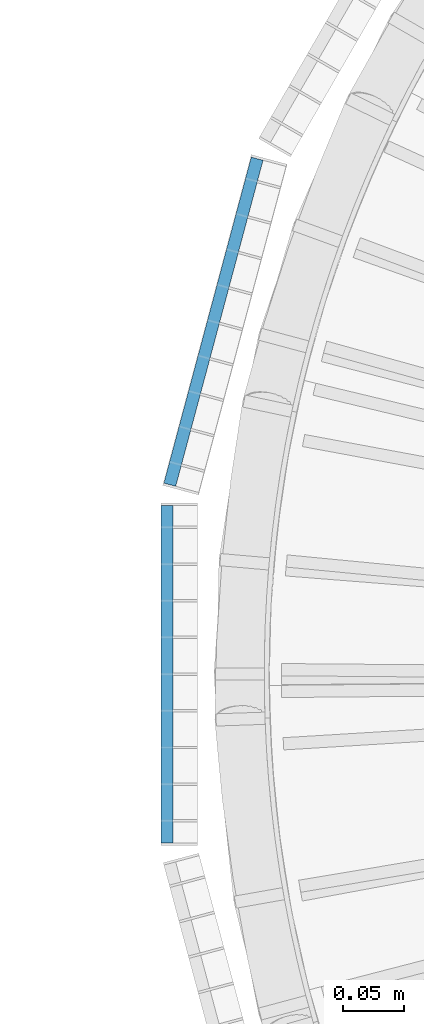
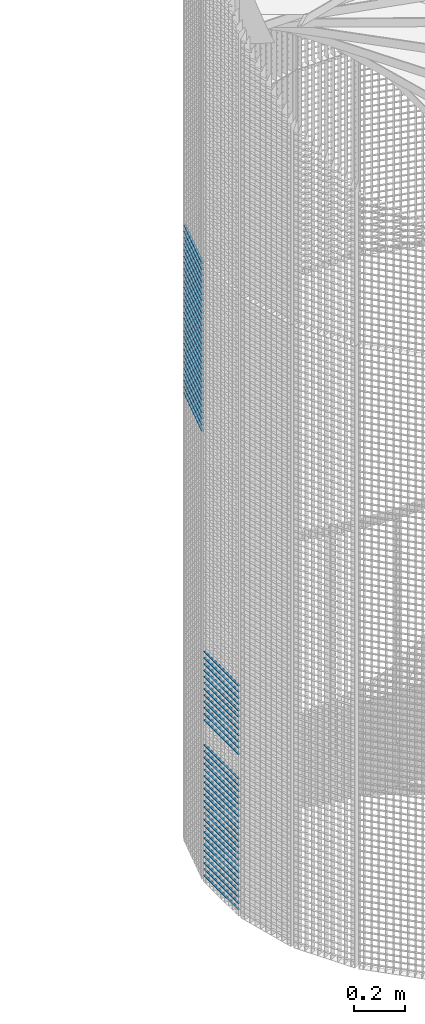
# One storey, part 214 of 1148: 62 beams, 2 elements without a shape of their own.
"""IFC2X3 building model written with IfcOpenShell, lengths in millimetres."""

from ifc_helpers import new_model, si_unit, frame, origin_with_axes, origin_2d_with_axis, place, context, subcontext, project, spatial, rectangle, extrude, material, type_object, element, aggregate, save


model = new_model("IFC2X3")

# Units and contexts
model_context = context("Model", 3, precision=1e-05, world=origin_with_axes())
body_context = subcontext(model_context, "Body", "Model", "MODEL_VIEW")
ifc_project = project(units=[si_unit("LENGTHUNIT", "METRE", prefix="MILLI"), si_unit("AREAUNIT", "SQUARE_METRE"), si_unit("VOLUMEUNIT", "CUBIC_METRE"), si_unit("MASSUNIT", "GRAM", prefix="KILO"), si_unit("TIMEUNIT", "SECOND"), si_unit("PLANEANGLEUNIT", "RADIAN"), si_unit("SOLIDANGLEUNIT", "STERADIAN"), si_unit("THERMODYNAMICTEMPERATUREUNIT", "DEGREE_CELSIUS"), si_unit("LUMINOUSINTENSITYUNIT", "LUMEN")], contexts=[model_context])

# Site, building, storey
site_placement = place(None, origin_with_axes())
site = spatial("IfcSite", under=ifc_project, at=site_placement, Name="Undefined", CompositionType="ELEMENT")
building_placement = place(site_placement, origin_with_axes())
building = spatial("IfcBuilding", under=site, at=building_placement, Name="Undefined", CompositionType="ELEMENT")
storey_placement = place(building_placement, origin_with_axes())
storey = spatial("IfcBuildingStorey", under=building, at=storey_placement, Name="Undefined", CompositionType="ELEMENT", Elevation=0.0)

# Assembly, beams
assembly_1_placement = place(storey_placement, origin_with_axes())
assembly_1 = element("IfcElementAssembly", 1, at=assembly_1_placement, inside=storey, Name="BORDURE", AssemblyPlace="NOTDEFINED", PredefinedType="NOTDEFINED")
ifc_material = material(Name="STEEL/S235JR")
beam_type = type_object("IfcBeamType", Name="PL2*10", PredefinedType="NOTDEFINED")
beam_1_placement = place(assembly_1_placement, frame((-1113.47999999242, 137.996003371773, 659.999999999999), z_axis=(-1.0, 0.0, 0.0), x_axis=(0.0, -1.0, 0.0)))
beam_1 = element("IfcBeam", 2, at=beam_1_placement, type_object=beam_type, material=ifc_material, Name="ENTRETOISE", context=body_context, shape_type="SweptSolid", body=[
    extrude(rectangle(XDim=2.0, YDim=10.0, at=origin_2d_with_axis()), frame((275.999999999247, 9.09494701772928e-13, 1.53210777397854e-14), z_axis=(-1.0, 0.0, 0.0), x_axis=(0.0, -1.0, 0.0)), (0.0, 0.0, 1.0), 276.0),
])
beam_2_placement = place(assembly_1_placement, frame((-1113.47999999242, 137.996003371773, 629.999999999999), z_axis=(-1.0, 0.0, 0.0), x_axis=(0.0, -1.0, 0.0)))
beam_2 = element("IfcBeam", 3, at=beam_2_placement, type_object=beam_type, material=ifc_material, Name="ENTRETOISE", context=body_context, shape_type="SweptSolid", body=[
    extrude(rectangle(XDim=2.0, YDim=10.0, at=origin_2d_with_axis()), frame((275.999999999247, 9.09494701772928e-13, 1.53210777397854e-14), z_axis=(-1.0, 0.0, 0.0), x_axis=(0.0, -1.0, 0.0)), (0.0, 0.0, 1.0), 276.0),
])
beam_3_placement = place(assembly_1_placement, frame((-1113.47999999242, 137.996003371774, 779.999999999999), z_axis=(-1.0, 0.0, 0.0), x_axis=(0.0, -1.0, 0.0)))
beam_3 = element("IfcBeam", 4, at=beam_3_placement, type_object=beam_type, material=ifc_material, Name="ENTRETOISE", context=body_context, shape_type="SweptSolid", body=[
    extrude(rectangle(XDim=2.0, YDim=10.0, at=origin_2d_with_axis()), frame((275.999999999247, 9.09494701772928e-13, 1.53210777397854e-14), z_axis=(-1.0, 0.0, 0.0), x_axis=(0.0, -1.0, 0.0)), (0.0, 0.0, 1.0), 276.0),
])
beam_4_placement = place(assembly_1_placement, frame((-1113.47999999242, 137.996003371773, 599.999999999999), z_axis=(-1.0, 0.0, 0.0), x_axis=(0.0, -1.0, 0.0)))
beam_4 = element("IfcBeam", 5, at=beam_4_placement, type_object=beam_type, material=ifc_material, Name="ENTRETOISE", context=body_context, shape_type="SweptSolid", body=[
    extrude(rectangle(XDim=2.0, YDim=10.0, at=origin_2d_with_axis()), frame((275.999999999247, 9.09494701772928e-13, 1.53210777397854e-14), z_axis=(-1.0, 0.0, 0.0), x_axis=(0.0, -1.0, 0.0)), (0.0, 0.0, 1.0), 276.0),
])
beam_5_placement = place(assembly_1_placement, frame((-1113.47999999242, 137.996003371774, 809.999999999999), z_axis=(-1.0, 0.0, 0.0), x_axis=(0.0, -1.0, 0.0)))
beam_5 = element("IfcBeam", 6, at=beam_5_placement, type_object=beam_type, material=ifc_material, Name="ENTRETOISE", context=body_context, shape_type="SweptSolid", body=[
    extrude(rectangle(XDim=2.0, YDim=10.0, at=origin_2d_with_axis()), frame((275.999999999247, 9.09494701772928e-13, 1.53210777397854e-14), z_axis=(-1.0, 0.0, 0.0), x_axis=(0.0, -1.0, 0.0)), (0.0, 0.0, 1.0), 276.0),
])
beam_6_placement = place(assembly_1_placement, frame((-1113.47999999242, 137.996003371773, 569.999999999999), z_axis=(-1.0, 0.0, 0.0), x_axis=(0.0, -1.0, 0.0)))
beam_6 = element("IfcBeam", 7, at=beam_6_placement, type_object=beam_type, material=ifc_material, Name="ENTRETOISE", context=body_context, shape_type="SweptSolid", body=[
    extrude(rectangle(XDim=2.0, YDim=10.0, at=origin_2d_with_axis()), frame((275.999999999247, 9.09494701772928e-13, 1.53210777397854e-14), z_axis=(-1.0, 0.0, 0.0), x_axis=(0.0, -1.0, 0.0)), (0.0, 0.0, 1.0), 276.0),
])
beam_7_placement = place(assembly_1_placement, frame((-1113.47999999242, 137.996003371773, 539.999999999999), z_axis=(-1.0, 0.0, 0.0), x_axis=(0.0, -1.0, 0.0)))
beam_7 = element("IfcBeam", 8, at=beam_7_placement, type_object=beam_type, material=ifc_material, Name="ENTRETOISE", context=body_context, shape_type="SweptSolid", body=[
    extrude(rectangle(XDim=2.0, YDim=10.0, at=origin_2d_with_axis()), frame((275.999999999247, 9.09494701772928e-13, 1.53210777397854e-14), z_axis=(-1.0, 0.0, 0.0), x_axis=(0.0, -1.0, 0.0)), (0.0, 0.0, 1.0), 276.0),
])
beam_8_placement = place(assembly_1_placement, frame((-1113.47999999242, 137.996003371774, 839.999999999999), z_axis=(-1.0, 0.0, 0.0), x_axis=(0.0, -1.0, 0.0)))
beam_8 = element("IfcBeam", 9, at=beam_8_placement, type_object=beam_type, material=ifc_material, Name="ENTRETOISE", context=body_context, shape_type="SweptSolid", body=[
    extrude(rectangle(XDim=2.0, YDim=10.0, at=origin_2d_with_axis()), frame((275.999999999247, 9.09494701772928e-13, 1.53210777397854e-14), z_axis=(-1.0, 0.0, 0.0), x_axis=(0.0, -1.0, 0.0)), (0.0, 0.0, 1.0), 276.0),
])
beam_9_placement = place(assembly_1_placement, frame((-1113.47999999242, 137.996003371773, 509.999999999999), z_axis=(-1.0, 0.0, 0.0), x_axis=(0.0, -1.0, 0.0)))
beam_9 = element("IfcBeam", 10, at=beam_9_placement, type_object=beam_type, material=ifc_material, Name="ENTRETOISE", context=body_context, shape_type="SweptSolid", body=[
    extrude(rectangle(XDim=2.0, YDim=10.0, at=origin_2d_with_axis()), frame((275.999999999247, 9.09494701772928e-13, 1.53210777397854e-14), z_axis=(-1.0, 0.0, 0.0), x_axis=(0.0, -1.0, 0.0)), (0.0, 0.0, 1.0), 276.0),
])
beam_10_placement = place(assembly_1_placement, frame((-1113.47999999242, 137.996003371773, 479.999999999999), z_axis=(-1.0, 0.0, 0.0), x_axis=(0.0, -1.0, 0.0)))
beam_10 = element("IfcBeam", 11, at=beam_10_placement, type_object=beam_type, material=ifc_material, Name="ENTRETOISE", context=body_context, shape_type="SweptSolid", body=[
    extrude(rectangle(XDim=2.0, YDim=10.0, at=origin_2d_with_axis()), frame((275.999999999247, 9.09494701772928e-13, 1.53210777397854e-14), z_axis=(-1.0, 0.0, 0.0), x_axis=(0.0, -1.0, 0.0)), (0.0, 0.0, 1.0), 276.0),
])
beam_11_placement = place(assembly_1_placement, frame((-1113.47999999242, 137.996003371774, 869.999999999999), z_axis=(-1.0, 0.0, 0.0), x_axis=(0.0, -1.0, 0.0)))
beam_11 = element("IfcBeam", 12, at=beam_11_placement, type_object=beam_type, material=ifc_material, Name="ENTRETOISE", context=body_context, shape_type="SweptSolid", body=[
    extrude(rectangle(XDim=2.0, YDim=10.0, at=origin_2d_with_axis()), frame((275.999999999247, 9.09494701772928e-13, 1.53210777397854e-14), z_axis=(-1.0, 0.0, 0.0), x_axis=(0.0, -1.0, 0.0)), (0.0, 0.0, 1.0), 276.0),
])
beam_12_placement = place(assembly_1_placement, frame((-1113.47999999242, 137.996003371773, 449.999999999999), z_axis=(-1.0, 0.0, 0.0), x_axis=(0.0, -1.0, 0.0)))
beam_12 = element("IfcBeam", 13, at=beam_12_placement, type_object=beam_type, material=ifc_material, Name="ENTRETOISE", context=body_context, shape_type="SweptSolid", body=[
    extrude(rectangle(XDim=2.0, YDim=10.0, at=origin_2d_with_axis()), frame((275.999999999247, 9.09494701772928e-13, 1.53210777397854e-14), z_axis=(-1.0, 0.0, 0.0), x_axis=(0.0, -1.0, 0.0)), (0.0, 0.0, 1.0), 276.0),
])
beam_13_placement = place(assembly_1_placement, frame((-1113.47999999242, 137.996003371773, 419.999999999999), z_axis=(-1.0, 0.0, 0.0), x_axis=(0.0, -1.0, 0.0)))
beam_13 = element("IfcBeam", 14, at=beam_13_placement, type_object=beam_type, material=ifc_material, Name="ENTRETOISE", context=body_context, shape_type="SweptSolid", body=[
    extrude(rectangle(XDim=2.0, YDim=10.0, at=origin_2d_with_axis()), frame((275.999999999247, 9.09494701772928e-13, 1.53210777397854e-14), z_axis=(-1.0, 0.0, 0.0), x_axis=(0.0, -1.0, 0.0)), (0.0, 0.0, 1.0), 276.0),
])
beam_14_placement = place(assembly_1_placement, frame((-1113.47999999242, 137.996003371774, 899.999999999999), z_axis=(-1.0, 0.0, 0.0), x_axis=(0.0, -1.0, 0.0)))
beam_14 = element("IfcBeam", 15, at=beam_14_placement, type_object=beam_type, material=ifc_material, Name="ENTRETOISE", context=body_context, shape_type="SweptSolid", body=[
    extrude(rectangle(XDim=2.0, YDim=10.0, at=origin_2d_with_axis()), frame((275.999999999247, 9.09494701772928e-13, 1.53210777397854e-14), z_axis=(-1.0, 0.0, 0.0), x_axis=(0.0, -1.0, 0.0)), (0.0, 0.0, 1.0), 276.0),
])
beam_15_placement = place(assembly_1_placement, frame((-1113.47999999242, 137.996003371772, 389.999999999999), z_axis=(-1.0, 0.0, 0.0), x_axis=(0.0, -1.0, 0.0)))
beam_15 = element("IfcBeam", 16, at=beam_15_placement, type_object=beam_type, material=ifc_material, Name="ENTRETOISE", context=body_context, shape_type="SweptSolid", body=[
    extrude(rectangle(XDim=2.0, YDim=10.0, at=origin_2d_with_axis()), frame((275.999999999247, 9.09494701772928e-13, 1.53210777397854e-14), z_axis=(-1.0, 0.0, 0.0), x_axis=(0.0, -1.0, 0.0)), (0.0, 0.0, 1.0), 276.0),
])
beam_16_placement = place(assembly_1_placement, frame((-1113.47999999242, 137.996003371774, 929.999999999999), z_axis=(-1.0, 0.0, 0.0), x_axis=(0.0, -1.0, 0.0)))
beam_16 = element("IfcBeam", 17, at=beam_16_placement, type_object=beam_type, material=ifc_material, Name="ENTRETOISE", context=body_context, shape_type="SweptSolid", body=[
    extrude(rectangle(XDim=2.0, YDim=10.0, at=origin_2d_with_axis()), frame((275.999999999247, 9.09494701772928e-13, 1.53210777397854e-14), z_axis=(-1.0, 0.0, 0.0), x_axis=(0.0, -1.0, 0.0)), (0.0, 0.0, 1.0), 276.0),
])
beam_17_placement = place(assembly_1_placement, frame((-1113.47999999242, 137.996003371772, 359.999999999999), z_axis=(-1.0, 0.0, 0.0), x_axis=(0.0, -1.0, 0.0)))
beam_17 = element("IfcBeam", 18, at=beam_17_placement, type_object=beam_type, material=ifc_material, Name="ENTRETOISE", context=body_context, shape_type="SweptSolid", body=[
    extrude(rectangle(XDim=2.0, YDim=10.0, at=origin_2d_with_axis()), frame((275.999999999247, 9.09494701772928e-13, 1.53210777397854e-14), z_axis=(-1.0, 0.0, 0.0), x_axis=(0.0, -1.0, 0.0)), (0.0, 0.0, 1.0), 276.0),
])
beam_18_placement = place(assembly_1_placement, frame((-1113.47999999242, 137.996003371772, 329.999999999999), z_axis=(-1.0, 0.0, 0.0), x_axis=(0.0, -1.0, 0.0)))
beam_18 = element("IfcBeam", 19, at=beam_18_placement, type_object=beam_type, material=ifc_material, Name="ENTRETOISE", context=body_context, shape_type="SweptSolid", body=[
    extrude(rectangle(XDim=2.0, YDim=10.0, at=origin_2d_with_axis()), frame((275.999999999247, 9.09494701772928e-13, 1.53210777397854e-14), z_axis=(-1.0, 0.0, 0.0), x_axis=(0.0, -1.0, 0.0)), (0.0, 0.0, 1.0), 276.0),
])
beam_19_placement = place(assembly_1_placement, frame((-1113.47999999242, 137.996003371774, 959.999999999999), z_axis=(-1.0, 0.0, 0.0), x_axis=(0.0, -1.0, 0.0)))
beam_19 = element("IfcBeam", 20, at=beam_19_placement, type_object=beam_type, material=ifc_material, Name="ENTRETOISE", context=body_context, shape_type="SweptSolid", body=[
    extrude(rectangle(XDim=2.0, YDim=10.0, at=origin_2d_with_axis()), frame((275.999999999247, 9.09494701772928e-13, 1.53210777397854e-14), z_axis=(-1.0, 0.0, 0.0), x_axis=(0.0, -1.0, 0.0)), (0.0, 0.0, 1.0), 276.0),
])
beam_20_placement = place(assembly_1_placement, frame((-1113.47999999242, 137.996003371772, 299.999999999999), z_axis=(-1.0, 0.0, 0.0), x_axis=(0.0, -1.0, 0.0)))
beam_20 = element("IfcBeam", 21, at=beam_20_placement, type_object=beam_type, material=ifc_material, Name="ENTRETOISE", context=body_context, shape_type="SweptSolid", body=[
    extrude(rectangle(XDim=2.0, YDim=10.0, at=origin_2d_with_axis()), frame((275.999999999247, 9.09494701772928e-13, 1.53210777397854e-14), z_axis=(-1.0, 0.0, 0.0), x_axis=(0.0, -1.0, 0.0)), (0.0, 0.0, 1.0), 276.0),
])
beam_21_placement = place(assembly_1_placement, frame((-1113.47999999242, 137.996003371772, 269.999999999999), z_axis=(-1.0, 0.0, 0.0), x_axis=(0.0, -1.0, 0.0)))
beam_21 = element("IfcBeam", 22, at=beam_21_placement, type_object=beam_type, material=ifc_material, Name="ENTRETOISE", context=body_context, shape_type="SweptSolid", body=[
    extrude(rectangle(XDim=2.0, YDim=10.0, at=origin_2d_with_axis()), frame((275.999999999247, 9.09494701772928e-13, 1.53210777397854e-14), z_axis=(-1.0, 0.0, 0.0), x_axis=(0.0, -1.0, 0.0)), (0.0, 0.0, 1.0), 276.0),
])
beam_22_placement = place(assembly_1_placement, frame((-1113.47999999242, 137.996003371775, 989.999999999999), z_axis=(-1.0, 0.0, 0.0), x_axis=(0.0, -1.0, 0.0)))
beam_22 = element("IfcBeam", 23, at=beam_22_placement, type_object=beam_type, material=ifc_material, Name="ENTRETOISE", context=body_context, shape_type="SweptSolid", body=[
    extrude(rectangle(XDim=2.0, YDim=10.0, at=origin_2d_with_axis()), frame((275.999999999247, 9.09494701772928e-13, 1.53210777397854e-14), z_axis=(-1.0, 0.0, 0.0), x_axis=(0.0, -1.0, 0.0)), (0.0, 0.0, 1.0), 276.0),
])
beam_23_placement = place(assembly_1_placement, frame((-1113.47999999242, 137.996003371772, 239.999999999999), z_axis=(-1.0, 0.0, 0.0), x_axis=(0.0, -1.0, 0.0)))
beam_23 = element("IfcBeam", 24, at=beam_23_placement, type_object=beam_type, material=ifc_material, Name="ENTRETOISE", context=body_context, shape_type="SweptSolid", body=[
    extrude(rectangle(XDim=2.0, YDim=10.0, at=origin_2d_with_axis()), frame((275.999999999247, 9.09494701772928e-13, 1.53210777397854e-14), z_axis=(-1.0, 0.0, 0.0), x_axis=(0.0, -1.0, 0.0)), (0.0, 0.0, 1.0), 276.0),
])
beam_24_placement = place(assembly_1_placement, frame((-1113.47999999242, 137.996003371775, 1020.0), z_axis=(-1.0, 0.0, 0.0), x_axis=(0.0, -1.0, 0.0)))
beam_24 = element("IfcBeam", 25, at=beam_24_placement, type_object=beam_type, material=ifc_material, Name="ENTRETOISE", context=body_context, shape_type="SweptSolid", body=[
    extrude(rectangle(XDim=2.0, YDim=10.0, at=origin_2d_with_axis()), frame((275.999999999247, 9.09494701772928e-13, 1.53210777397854e-14), z_axis=(-1.0, 0.0, 0.0), x_axis=(0.0, -1.0, 0.0)), (0.0, 0.0, 1.0), 276.0),
])
beam_25_placement = place(assembly_1_placement, frame((-1113.47999999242, 137.996003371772, 209.999999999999), z_axis=(-1.0, 0.0, 0.0), x_axis=(0.0, -1.0, 0.0)))
beam_25 = element("IfcBeam", 26, at=beam_25_placement, type_object=beam_type, material=ifc_material, Name="ENTRETOISE", context=body_context, shape_type="SweptSolid", body=[
    extrude(rectangle(XDim=2.0, YDim=10.0, at=origin_2d_with_axis()), frame((275.999999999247, 9.09494701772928e-13, 1.53210777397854e-14), z_axis=(-1.0, 0.0, 0.0), x_axis=(0.0, -1.0, 0.0)), (0.0, 0.0, 1.0), 276.0),
])
beam_26_placement = place(assembly_1_placement, frame((-1113.47999999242, 137.996003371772, 179.999999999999), z_axis=(-1.0, 0.0, 0.0), x_axis=(0.0, -1.0, 0.0)))
beam_26 = element("IfcBeam", 27, at=beam_26_placement, type_object=beam_type, material=ifc_material, Name="ENTRETOISE", context=body_context, shape_type="SweptSolid", body=[
    extrude(rectangle(XDim=2.0, YDim=10.0, at=origin_2d_with_axis()), frame((275.999999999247, 9.09494701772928e-13, 1.53210777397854e-14), z_axis=(-1.0, 0.0, 0.0), x_axis=(0.0, -1.0, 0.0)), (0.0, 0.0, 1.0), 276.0),
])
beam_27_placement = place(assembly_1_placement, frame((-1113.47999999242, 137.996003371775, 1050.0), z_axis=(-1.0, 0.0, 0.0), x_axis=(0.0, -1.0, 0.0)))
beam_27 = element("IfcBeam", 28, at=beam_27_placement, type_object=beam_type, material=ifc_material, Name="ENTRETOISE", context=body_context, shape_type="SweptSolid", body=[
    extrude(rectangle(XDim=2.0, YDim=10.0, at=origin_2d_with_axis()), frame((275.999999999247, 9.09494701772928e-13, 1.53210777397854e-14), z_axis=(-1.0, 0.0, 0.0), x_axis=(0.0, -1.0, 0.0)), (0.0, 0.0, 1.0), 276.0),
])
beam_28_placement = place(assembly_1_placement, frame((-1113.47999999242, 137.996003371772, 149.999999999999), z_axis=(-1.0, 0.0, 0.0), x_axis=(0.0, -1.0, 0.0)))
beam_28 = element("IfcBeam", 29, at=beam_28_placement, type_object=beam_type, material=ifc_material, Name="ENTRETOISE", context=body_context, shape_type="SweptSolid", body=[
    extrude(rectangle(XDim=2.0, YDim=10.0, at=origin_2d_with_axis()), frame((275.999999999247, 9.09494701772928e-13, 1.53210777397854e-14), z_axis=(-1.0, 0.0, 0.0), x_axis=(0.0, -1.0, 0.0)), (0.0, 0.0, 1.0), 276.0),
])
beam_29_placement = place(assembly_1_placement, frame((-1113.47999999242, 137.996003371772, 119.999999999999), z_axis=(-1.0, 0.0, 0.0), x_axis=(0.0, -1.0, 0.0)))
beam_29 = element("IfcBeam", 30, at=beam_29_placement, type_object=beam_type, material=ifc_material, Name="ENTRETOISE", context=body_context, shape_type="SweptSolid", body=[
    extrude(rectangle(XDim=2.0, YDim=10.0, at=origin_2d_with_axis()), frame((275.999999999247, 9.09494701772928e-13, 1.53210777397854e-14), z_axis=(-1.0, 0.0, 0.0), x_axis=(0.0, -1.0, 0.0)), (0.0, 0.0, 1.0), 276.0),
])
beam_30_placement = place(assembly_1_placement, frame((-1113.47999999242, 137.996003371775, 1080.0), z_axis=(-1.0, 0.0, 0.0), x_axis=(0.0, -1.0, 0.0)))
beam_30 = element("IfcBeam", 31, at=beam_30_placement, type_object=beam_type, material=ifc_material, Name="ENTRETOISE", context=body_context, shape_type="SweptSolid", body=[
    extrude(rectangle(XDim=2.0, YDim=10.0, at=origin_2d_with_axis()), frame((275.999999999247, 9.09494701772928e-13, 1.53210777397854e-14), z_axis=(-1.0, 0.0, 0.0), x_axis=(0.0, -1.0, 0.0)), (0.0, 0.0, 1.0), 276.0),
])
beam_31_placement = place(assembly_1_placement, frame((-1113.47999999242, 137.996003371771, 89.9999999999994), z_axis=(-1.0, 0.0, 0.0), x_axis=(0.0, -1.0, 0.0)))
beam_31 = element("IfcBeam", 32, at=beam_31_placement, type_object=beam_type, material=ifc_material, Name="ENTRETOISE", context=body_context, shape_type="SweptSolid", body=[
    extrude(rectangle(XDim=2.0, YDim=10.0, at=origin_2d_with_axis()), frame((275.999999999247, 9.09494701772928e-13, 1.53210777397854e-14), z_axis=(-1.0, 0.0, 0.0), x_axis=(0.0, -1.0, 0.0)), (0.0, 0.0, 1.0), 276.0),
])
beam_32_placement = place(assembly_1_placement, frame((-1113.47999999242, 137.996003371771, 59.9999999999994), z_axis=(-1.0, 0.0, 0.0), x_axis=(0.0, -1.0, 0.0)))
beam_32 = element("IfcBeam", 33, at=beam_32_placement, type_object=beam_type, material=ifc_material, Name="ENTRETOISE", context=body_context, shape_type="SweptSolid", body=[
    extrude(rectangle(XDim=2.0, YDim=10.0, at=origin_2d_with_axis()), frame((275.999999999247, 9.09494701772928e-13, 1.53210777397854e-14), z_axis=(-1.0, 0.0, 0.0), x_axis=(0.0, -1.0, 0.0)), (0.0, 0.0, 1.0), 276.0),
])
beam_33_placement = place(assembly_1_placement, frame((-1113.47999999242, 137.996003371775, 1110.0), z_axis=(-1.0, 0.0, 0.0), x_axis=(0.0, -1.0, 0.0)))
beam_33 = element("IfcBeam", 34, at=beam_33_placement, type_object=beam_type, material=ifc_material, Name="ENTRETOISE", context=body_context, shape_type="SweptSolid", body=[
    extrude(rectangle(XDim=2.0, YDim=10.0, at=origin_2d_with_axis()), frame((275.999999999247, 9.09494701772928e-13, 1.53210777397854e-14), z_axis=(-1.0, 0.0, 0.0), x_axis=(0.0, -1.0, 0.0)), (0.0, 0.0, 1.0), 276.0),
])
beam_34_placement = place(assembly_1_placement, frame((-1113.47999999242, 137.99600337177, 29.9999999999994), z_axis=(-1.0, 0.0, 0.0), x_axis=(0.0, -1.0, 0.0)))
beam_34 = element("IfcBeam", 35, at=beam_34_placement, type_object=beam_type, material=ifc_material, Name="ENTRETOISE", context=body_context, shape_type="SweptSolid", body=[
    extrude(rectangle(XDim=2.0, YDim=10.0, at=origin_2d_with_axis()), frame((275.999999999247, 9.09494701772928e-13, 1.53210777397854e-14), z_axis=(-1.0, 0.0, 0.0), x_axis=(0.0, -1.0, 0.0)), (0.0, 0.0, 1.0), 276.0),
])
aggregate(assembly_1, [beam_1, beam_2, beam_3, beam_4, beam_5, beam_6, beam_7, beam_8, beam_9, beam_10, beam_11, beam_12, beam_13, beam_14, beam_15, beam_16, beam_17, beam_18, beam_19, beam_20, beam_21, beam_22, beam_23, beam_24, beam_25, beam_26, beam_27, beam_28, beam_29, beam_30, beam_31, beam_32, beam_33, beam_34])

assembly_2_placement = place(storey_placement, origin_with_axes())
assembly_2 = element("IfcElementAssembly", 36, at=assembly_2_placement, inside=storey, Name="BORDURE", AssemblyPlace="NOTDEFINED", PredefinedType="NOTDEFINED")
beam_35_placement = place(assembly_2_placement, frame((-1039.82309522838, 421.483733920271, 2970.0), z_axis=(-0.965925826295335, 0.258819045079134, 0.0), x_axis=(-0.258819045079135, -0.965925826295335, 0.0)))
beam_35 = element("IfcBeam", 37, at=beam_35_placement, type_object=beam_type, material=ifc_material, Name="ENTRETOISE", context=body_context, shape_type="SweptSolid", body=[
    extrude(rectangle(XDim=2.0, YDim=10.0, at=origin_2d_with_axis()), frame((275.999999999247, 9.09494701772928e-13, 1.53210777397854e-14), z_axis=(-1.0, 0.0, 0.0), x_axis=(0.0, -1.0, 0.0)), (0.0, 0.0, 1.0), 276.0),
])
beam_36_placement = place(assembly_2_placement, frame((-1039.82309522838, 421.483733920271, 2940.0), z_axis=(-0.965925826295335, 0.258819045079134, 0.0), x_axis=(-0.258819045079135, -0.965925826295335, 0.0)))
beam_36 = element("IfcBeam", 38, at=beam_36_placement, type_object=beam_type, material=ifc_material, Name="ENTRETOISE", context=body_context, shape_type="SweptSolid", body=[
    extrude(rectangle(XDim=2.0, YDim=10.0, at=origin_2d_with_axis()), frame((275.999999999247, 9.09494701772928e-13, 1.53210777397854e-14), z_axis=(-1.0, 0.0, 0.0), x_axis=(0.0, -1.0, 0.0)), (0.0, 0.0, 1.0), 276.0),
])
beam_37_placement = place(assembly_2_placement, frame((-1039.82309522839, 421.483733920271, 2910.0), z_axis=(-0.965925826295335, 0.258819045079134, 0.0), x_axis=(-0.258819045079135, -0.965925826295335, 0.0)))
beam_37 = element("IfcBeam", 39, at=beam_37_placement, type_object=beam_type, material=ifc_material, Name="ENTRETOISE", context=body_context, shape_type="SweptSolid", body=[
    extrude(rectangle(XDim=2.0, YDim=10.0, at=origin_2d_with_axis()), frame((275.999999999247, 9.09494701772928e-13, 1.53210777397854e-14), z_axis=(-1.0, 0.0, 0.0), x_axis=(0.0, -1.0, 0.0)), (0.0, 0.0, 1.0), 276.0),
])
beam_38_placement = place(assembly_2_placement, frame((-1039.82309522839, 421.483733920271, 2880.0), z_axis=(-0.965925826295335, 0.258819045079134, 0.0), x_axis=(-0.258819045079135, -0.965925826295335, 0.0)))
beam_38 = element("IfcBeam", 40, at=beam_38_placement, type_object=beam_type, material=ifc_material, Name="ENTRETOISE", context=body_context, shape_type="SweptSolid", body=[
    extrude(rectangle(XDim=2.0, YDim=10.0, at=origin_2d_with_axis()), frame((275.999999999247, 9.09494701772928e-13, 1.53210777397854e-14), z_axis=(-1.0, 0.0, 0.0), x_axis=(0.0, -1.0, 0.0)), (0.0, 0.0, 1.0), 276.0),
])
beam_39_placement = place(assembly_2_placement, frame((-1039.82309522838, 421.483733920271, 2850.0), z_axis=(-0.965925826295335, 0.258819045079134, 0.0), x_axis=(-0.258819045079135, -0.965925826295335, 0.0)))
beam_39 = element("IfcBeam", 41, at=beam_39_placement, type_object=beam_type, material=ifc_material, Name="ENTRETOISE", context=body_context, shape_type="SweptSolid", body=[
    extrude(rectangle(XDim=2.0, YDim=10.0, at=origin_2d_with_axis()), frame((275.999999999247, 9.09494701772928e-13, 1.53210777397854e-14), z_axis=(-1.0, 0.0, 0.0), x_axis=(0.0, -1.0, 0.0)), (0.0, 0.0, 1.0), 276.0),
])
beam_40_placement = place(assembly_2_placement, frame((-1039.82309522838, 421.483733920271, 2820.0), z_axis=(-0.965925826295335, 0.258819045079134, 0.0), x_axis=(-0.258819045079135, -0.965925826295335, 0.0)))
beam_40 = element("IfcBeam", 42, at=beam_40_placement, type_object=beam_type, material=ifc_material, Name="ENTRETOISE", context=body_context, shape_type="SweptSolid", body=[
    extrude(rectangle(XDim=2.0, YDim=10.0, at=origin_2d_with_axis()), frame((275.999999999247, 9.09494701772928e-13, 1.53210777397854e-14), z_axis=(-1.0, 0.0, 0.0), x_axis=(0.0, -1.0, 0.0)), (0.0, 0.0, 1.0), 276.0),
])
beam_41_placement = place(assembly_2_placement, frame((-1039.82309522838, 421.48373392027, 2790.0), z_axis=(-0.965925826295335, 0.258819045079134, 0.0), x_axis=(-0.258819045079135, -0.965925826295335, 0.0)))
beam_41 = element("IfcBeam", 43, at=beam_41_placement, type_object=beam_type, material=ifc_material, Name="ENTRETOISE", context=body_context, shape_type="SweptSolid", body=[
    extrude(rectangle(XDim=2.0, YDim=10.0, at=origin_2d_with_axis()), frame((275.999999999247, 9.09494701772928e-13, 1.53210777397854e-14), z_axis=(-1.0, 0.0, 0.0), x_axis=(0.0, -1.0, 0.0)), (0.0, 0.0, 1.0), 276.0),
])
beam_42_placement = place(assembly_2_placement, frame((-1039.82309522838, 421.48373392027, 2760.0), z_axis=(-0.965925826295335, 0.258819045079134, 0.0), x_axis=(-0.258819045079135, -0.965925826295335, 0.0)))
beam_42 = element("IfcBeam", 44, at=beam_42_placement, type_object=beam_type, material=ifc_material, Name="ENTRETOISE", context=body_context, shape_type="SweptSolid", body=[
    extrude(rectangle(XDim=2.0, YDim=10.0, at=origin_2d_with_axis()), frame((275.999999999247, 9.09494701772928e-13, 1.53210777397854e-14), z_axis=(-1.0, 0.0, 0.0), x_axis=(0.0, -1.0, 0.0)), (0.0, 0.0, 1.0), 276.0),
])
beam_43_placement = place(assembly_2_placement, frame((-1039.82309522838, 421.48373392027, 2730.0), z_axis=(-0.965925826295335, 0.258819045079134, 0.0), x_axis=(-0.258819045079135, -0.965925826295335, 0.0)))
beam_43 = element("IfcBeam", 45, at=beam_43_placement, type_object=beam_type, material=ifc_material, Name="ENTRETOISE", context=body_context, shape_type="SweptSolid", body=[
    extrude(rectangle(XDim=2.0, YDim=10.0, at=origin_2d_with_axis()), frame((275.999999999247, 9.09494701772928e-13, 1.53210777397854e-14), z_axis=(-1.0, 0.0, 0.0), x_axis=(0.0, -1.0, 0.0)), (0.0, 0.0, 1.0), 276.0),
])
beam_44_placement = place(assembly_2_placement, frame((-1039.82309522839, 421.48373392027, 2700.0), z_axis=(-0.965925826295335, 0.258819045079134, 0.0), x_axis=(-0.258819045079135, -0.965925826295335, 0.0)))
beam_44 = element("IfcBeam", 46, at=beam_44_placement, type_object=beam_type, material=ifc_material, Name="ENTRETOISE", context=body_context, shape_type="SweptSolid", body=[
    extrude(rectangle(XDim=2.0, YDim=10.0, at=origin_2d_with_axis()), frame((275.999999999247, 9.09494701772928e-13, 1.53210777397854e-14), z_axis=(-1.0, 0.0, 0.0), x_axis=(0.0, -1.0, 0.0)), (0.0, 0.0, 1.0), 276.0),
])
beam_45_placement = place(assembly_2_placement, frame((-1039.82309522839, 421.48373392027, 2670.0), z_axis=(-0.965925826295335, 0.258819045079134, 0.0), x_axis=(-0.258819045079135, -0.965925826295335, 0.0)))
beam_45 = element("IfcBeam", 47, at=beam_45_placement, type_object=beam_type, material=ifc_material, Name="ENTRETOISE", context=body_context, shape_type="SweptSolid", body=[
    extrude(rectangle(XDim=2.0, YDim=10.0, at=origin_2d_with_axis()), frame((275.999999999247, 9.09494701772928e-13, 1.53210777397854e-14), z_axis=(-1.0, 0.0, 0.0), x_axis=(0.0, -1.0, 0.0)), (0.0, 0.0, 1.0), 276.0),
])
beam_46_placement = place(assembly_2_placement, frame((-1039.82309522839, 421.48373392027, 2640.0), z_axis=(-0.965925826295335, 0.258819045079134, 0.0), x_axis=(-0.258819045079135, -0.965925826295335, 0.0)))
beam_46 = element("IfcBeam", 48, at=beam_46_placement, type_object=beam_type, material=ifc_material, Name="ENTRETOISE", context=body_context, shape_type="SweptSolid", body=[
    extrude(rectangle(XDim=2.0, YDim=10.0, at=origin_2d_with_axis()), frame((275.999999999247, 9.09494701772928e-13, 1.53210777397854e-14), z_axis=(-1.0, 0.0, 0.0), x_axis=(0.0, -1.0, 0.0)), (0.0, 0.0, 1.0), 276.0),
])
beam_47_placement = place(assembly_2_placement, frame((-1039.82309522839, 421.48373392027, 2610.0), z_axis=(-0.965925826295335, 0.258819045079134, 0.0), x_axis=(-0.258819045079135, -0.965925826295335, 0.0)))
beam_47 = element("IfcBeam", 49, at=beam_47_placement, type_object=beam_type, material=ifc_material, Name="ENTRETOISE", context=body_context, shape_type="SweptSolid", body=[
    extrude(rectangle(XDim=2.0, YDim=10.0, at=origin_2d_with_axis()), frame((275.999999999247, 9.09494701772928e-13, 1.53210777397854e-14), z_axis=(-1.0, 0.0, 0.0), x_axis=(0.0, -1.0, 0.0)), (0.0, 0.0, 1.0), 276.0),
])
beam_48_placement = place(assembly_2_placement, frame((-1039.82309522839, 421.48373392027, 2580.0), z_axis=(-0.965925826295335, 0.258819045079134, 0.0), x_axis=(-0.258819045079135, -0.965925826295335, 0.0)))
beam_48 = element("IfcBeam", 50, at=beam_48_placement, type_object=beam_type, material=ifc_material, Name="ENTRETOISE", context=body_context, shape_type="SweptSolid", body=[
    extrude(rectangle(XDim=2.0, YDim=10.0, at=origin_2d_with_axis()), frame((275.999999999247, 9.09494701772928e-13, 1.53210777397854e-14), z_axis=(-1.0, 0.0, 0.0), x_axis=(0.0, -1.0, 0.0)), (0.0, 0.0, 1.0), 276.0),
])
beam_49_placement = place(assembly_2_placement, frame((-1039.82309522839, 421.48373392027, 2550.0), z_axis=(-0.965925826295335, 0.258819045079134, 0.0), x_axis=(-0.258819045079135, -0.965925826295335, 0.0)))
beam_49 = element("IfcBeam", 51, at=beam_49_placement, type_object=beam_type, material=ifc_material, Name="ENTRETOISE", context=body_context, shape_type="SweptSolid", body=[
    extrude(rectangle(XDim=2.0, YDim=10.0, at=origin_2d_with_axis()), frame((275.999999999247, 9.09494701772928e-13, 1.53210777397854e-14), z_axis=(-1.0, 0.0, 0.0), x_axis=(0.0, -1.0, 0.0)), (0.0, 0.0, 1.0), 276.0),
])
beam_50_placement = place(assembly_2_placement, frame((-1039.82309522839, 421.48373392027, 2520.0), z_axis=(-0.965925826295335, 0.258819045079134, 0.0), x_axis=(-0.258819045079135, -0.965925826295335, 0.0)))
beam_50 = element("IfcBeam", 52, at=beam_50_placement, type_object=beam_type, material=ifc_material, Name="ENTRETOISE", context=body_context, shape_type="SweptSolid", body=[
    extrude(rectangle(XDim=2.0, YDim=10.0, at=origin_2d_with_axis()), frame((275.999999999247, 9.09494701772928e-13, 1.53210777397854e-14), z_axis=(-1.0, 0.0, 0.0), x_axis=(0.0, -1.0, 0.0)), (0.0, 0.0, 1.0), 276.0),
])
beam_51_placement = place(assembly_2_placement, frame((-1039.82309522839, 421.483733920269, 2490.0), z_axis=(-0.965925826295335, 0.258819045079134, 0.0), x_axis=(-0.258819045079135, -0.965925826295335, 0.0)))
beam_51 = element("IfcBeam", 53, at=beam_51_placement, type_object=beam_type, material=ifc_material, Name="ENTRETOISE", context=body_context, shape_type="SweptSolid", body=[
    extrude(rectangle(XDim=2.0, YDim=10.0, at=origin_2d_with_axis()), frame((275.999999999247, 9.09494701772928e-13, 1.53210777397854e-14), z_axis=(-1.0, 0.0, 0.0), x_axis=(0.0, -1.0, 0.0)), (0.0, 0.0, 1.0), 276.0),
])
beam_52_placement = place(assembly_2_placement, frame((-1039.82309522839, 421.483733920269, 2460.0), z_axis=(-0.965925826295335, 0.258819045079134, 0.0), x_axis=(-0.258819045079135, -0.965925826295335, 0.0)))
beam_52 = element("IfcBeam", 54, at=beam_52_placement, type_object=beam_type, material=ifc_material, Name="ENTRETOISE", context=body_context, shape_type="SweptSolid", body=[
    extrude(rectangle(XDim=2.0, YDim=10.0, at=origin_2d_with_axis()), frame((275.999999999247, 9.09494701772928e-13, 1.53210777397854e-14), z_axis=(-1.0, 0.0, 0.0), x_axis=(0.0, -1.0, 0.0)), (0.0, 0.0, 1.0), 276.0),
])
beam_53_placement = place(assembly_2_placement, frame((-1039.82309522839, 421.483733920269, 2430.0), z_axis=(-0.965925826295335, 0.258819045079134, 0.0), x_axis=(-0.258819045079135, -0.965925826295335, 0.0)))
beam_53 = element("IfcBeam", 55, at=beam_53_placement, type_object=beam_type, material=ifc_material, Name="ENTRETOISE", context=body_context, shape_type="SweptSolid", body=[
    extrude(rectangle(XDim=2.0, YDim=10.0, at=origin_2d_with_axis()), frame((275.999999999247, 9.09494701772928e-13, 1.53210777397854e-14), z_axis=(-1.0, 0.0, 0.0), x_axis=(0.0, -1.0, 0.0)), (0.0, 0.0, 1.0), 276.0),
])
beam_54_placement = place(assembly_2_placement, frame((-1039.82309522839, 421.483733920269, 2400.0), z_axis=(-0.965925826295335, 0.258819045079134, 0.0), x_axis=(-0.258819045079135, -0.965925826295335, 0.0)))
beam_54 = element("IfcBeam", 56, at=beam_54_placement, type_object=beam_type, material=ifc_material, Name="ENTRETOISE", context=body_context, shape_type="SweptSolid", body=[
    extrude(rectangle(XDim=2.0, YDim=10.0, at=origin_2d_with_axis()), frame((275.999999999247, 9.09494701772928e-13, 1.53210777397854e-14), z_axis=(-1.0, 0.0, 0.0), x_axis=(0.0, -1.0, 0.0)), (0.0, 0.0, 1.0), 276.0),
])
beam_55_placement = place(assembly_2_placement, frame((-1039.82309522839, 421.483733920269, 2370.0), z_axis=(-0.965925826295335, 0.258819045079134, 0.0), x_axis=(-0.258819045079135, -0.965925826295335, 0.0)))
beam_55 = element("IfcBeam", 57, at=beam_55_placement, type_object=beam_type, material=ifc_material, Name="ENTRETOISE", context=body_context, shape_type="SweptSolid", body=[
    extrude(rectangle(XDim=2.0, YDim=10.0, at=origin_2d_with_axis()), frame((275.999999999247, 9.09494701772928e-13, 1.53210777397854e-14), z_axis=(-1.0, 0.0, 0.0), x_axis=(0.0, -1.0, 0.0)), (0.0, 0.0, 1.0), 276.0),
])
beam_56_placement = place(assembly_2_placement, frame((-1039.82309522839, 421.483733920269, 2340.0), z_axis=(-0.965925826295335, 0.258819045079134, 0.0), x_axis=(-0.258819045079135, -0.965925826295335, 0.0)))
beam_56 = element("IfcBeam", 58, at=beam_56_placement, type_object=beam_type, material=ifc_material, Name="ENTRETOISE", context=body_context, shape_type="SweptSolid", body=[
    extrude(rectangle(XDim=2.0, YDim=10.0, at=origin_2d_with_axis()), frame((275.999999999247, 9.09494701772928e-13, 1.53210777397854e-14), z_axis=(-1.0, 0.0, 0.0), x_axis=(0.0, -1.0, 0.0)), (0.0, 0.0, 1.0), 276.0),
])
beam_57_placement = place(assembly_2_placement, frame((-1039.82309522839, 421.483733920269, 2310.0), z_axis=(-0.965925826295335, 0.258819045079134, 0.0), x_axis=(-0.258819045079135, -0.965925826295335, 0.0)))
beam_57 = element("IfcBeam", 59, at=beam_57_placement, type_object=beam_type, material=ifc_material, Name="ENTRETOISE", context=body_context, shape_type="SweptSolid", body=[
    extrude(rectangle(XDim=2.0, YDim=10.0, at=origin_2d_with_axis()), frame((275.999999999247, 9.09494701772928e-13, 1.53210777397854e-14), z_axis=(-1.0, 0.0, 0.0), x_axis=(0.0, -1.0, 0.0)), (0.0, 0.0, 1.0), 276.0),
])
beam_58_placement = place(assembly_2_placement, frame((-1039.82309522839, 421.483733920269, 2280.0), z_axis=(-0.965925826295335, 0.258819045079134, 0.0), x_axis=(-0.258819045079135, -0.965925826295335, 0.0)))
beam_58 = element("IfcBeam", 60, at=beam_58_placement, type_object=beam_type, material=ifc_material, Name="ENTRETOISE", context=body_context, shape_type="SweptSolid", body=[
    extrude(rectangle(XDim=2.0, YDim=10.0, at=origin_2d_with_axis()), frame((275.999999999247, 9.09494701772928e-13, 1.53210777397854e-14), z_axis=(-1.0, 0.0, 0.0), x_axis=(0.0, -1.0, 0.0)), (0.0, 0.0, 1.0), 276.0),
])
beam_59_placement = place(assembly_2_placement, frame((-1039.82309522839, 421.483733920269, 2250.0), z_axis=(-0.965925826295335, 0.258819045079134, 0.0), x_axis=(-0.258819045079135, -0.965925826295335, 0.0)))
beam_59 = element("IfcBeam", 61, at=beam_59_placement, type_object=beam_type, material=ifc_material, Name="ENTRETOISE", context=body_context, shape_type="SweptSolid", body=[
    extrude(rectangle(XDim=2.0, YDim=10.0, at=origin_2d_with_axis()), frame((275.999999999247, 9.09494701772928e-13, 1.53210777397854e-14), z_axis=(-1.0, 0.0, 0.0), x_axis=(0.0, -1.0, 0.0)), (0.0, 0.0, 1.0), 276.0),
])
beam_60_placement = place(assembly_2_placement, frame((-1039.82309522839, 421.483733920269, 2220.0), z_axis=(-0.965925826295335, 0.258819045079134, 0.0), x_axis=(-0.258819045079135, -0.965925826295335, 0.0)))
beam_60 = element("IfcBeam", 62, at=beam_60_placement, type_object=beam_type, material=ifc_material, Name="ENTRETOISE", context=body_context, shape_type="SweptSolid", body=[
    extrude(rectangle(XDim=2.0, YDim=10.0, at=origin_2d_with_axis()), frame((275.999999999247, 9.09494701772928e-13, 1.53210777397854e-14), z_axis=(-1.0, 0.0, 0.0), x_axis=(0.0, -1.0, 0.0)), (0.0, 0.0, 1.0), 276.0),
])
beam_61_placement = place(assembly_2_placement, frame((-1039.82309522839, 421.483733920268, 2190.0), z_axis=(-0.965925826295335, 0.258819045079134, 0.0), x_axis=(-0.258819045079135, -0.965925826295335, 0.0)))
beam_61 = element("IfcBeam", 63, at=beam_61_placement, type_object=beam_type, material=ifc_material, Name="ENTRETOISE", context=body_context, shape_type="SweptSolid", body=[
    extrude(rectangle(XDim=2.0, YDim=10.0, at=origin_2d_with_axis()), frame((275.999999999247, 9.09494701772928e-13, 1.53210777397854e-14), z_axis=(-1.0, 0.0, 0.0), x_axis=(0.0, -1.0, 0.0)), (0.0, 0.0, 1.0), 276.0),
])
beam_62_placement = place(assembly_2_placement, frame((-1039.82309522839, 421.483733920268, 2160.0), z_axis=(-0.965925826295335, 0.258819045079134, 0.0), x_axis=(-0.258819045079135, -0.965925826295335, 0.0)))
beam_62 = element("IfcBeam", 64, at=beam_62_placement, type_object=beam_type, material=ifc_material, Name="ENTRETOISE", context=body_context, shape_type="SweptSolid", body=[
    extrude(rectangle(XDim=2.0, YDim=10.0, at=origin_2d_with_axis()), frame((275.999999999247, 9.09494701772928e-13, 1.53210777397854e-14), z_axis=(-1.0, 0.0, 0.0), x_axis=(0.0, -1.0, 0.0)), (0.0, 0.0, 1.0), 276.0),
])
aggregate(assembly_2, [beam_35, beam_36, beam_37, beam_38, beam_39, beam_40, beam_41, beam_42, beam_43, beam_44, beam_45, beam_46, beam_47, beam_48, beam_49, beam_50, beam_51, beam_52, beam_53, beam_54, beam_55, beam_56, beam_57, beam_58, beam_59, beam_60, beam_61, beam_62])

save(model, "model.ifc")
